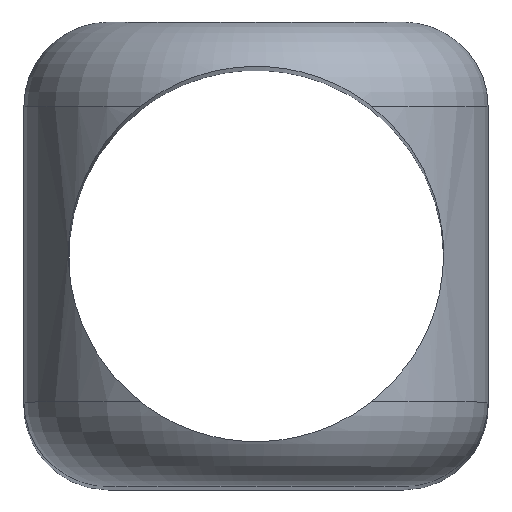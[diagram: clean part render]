
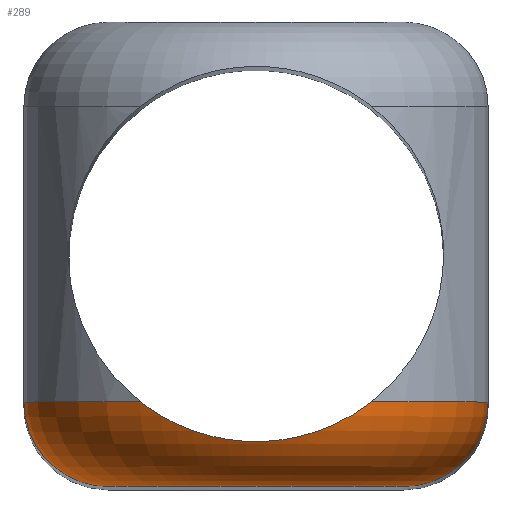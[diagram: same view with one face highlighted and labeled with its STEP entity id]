
A CAD part, top view. The second image highlights one B-rep face of the part: STEP entity #289.
In plain terms, the highlighted toroidal (fillet/blend) face has major radius 7 mm and minor radius 4 mm.
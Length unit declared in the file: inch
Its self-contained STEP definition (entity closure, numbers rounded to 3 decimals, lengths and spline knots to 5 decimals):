
#26=TOROIDAL_SURFACE('',#333,0.27559,0.15748);
#33=FACE_OUTER_BOUND('',#50,.T.);
#50=EDGE_LOOP('',(#227,#228,#229,#230,#231,#232));
#107=CIRCLE('',#325,0.43307);
#108=CIRCLE('',#334,0.43307);
#109=CIRCLE('',#335,0.15748);
#110=CIRCLE('',#336,0.27559);
#111=CIRCLE('',#337,0.15748);
#116=B_SPLINE_CURVE_WITH_KNOTS('',3,(#505,#506,#507,#508,#509,#510,#511,
#512,#513,#514,#515,#516,#517,#518,#519,#520,#521,#522),.UNSPECIFIED.,.F.,
 .F.,(4,2,2,2,2,2,2,2,4),(-1.20753,-0.9689,-0.7734,
-0.67593,-0.6117,-0.55016,-0.46606,
-0.28104,-0.00003),.UNSPECIFIED.);
#125=VERTEX_POINT('',#485);
#126=VERTEX_POINT('',#504);
#133=VERTEX_POINT('',#558);
#142=VERTEX_POINT('',#584);
#143=VERTEX_POINT('',#586);
#144=VERTEX_POINT('',#588);
#151=EDGE_CURVE('',#126,#125,#116,.T.);
#161=EDGE_CURVE('',#133,#126,#107,.T.);
#174=EDGE_CURVE('',#125,#142,#108,.T.);
#175=EDGE_CURVE('',#143,#142,#109,.T.);
#176=EDGE_CURVE('',#143,#144,#110,.T.);
#177=EDGE_CURVE('',#144,#133,#111,.T.);
#227=ORIENTED_EDGE('',*,*,#151,.T.);
#228=ORIENTED_EDGE('',*,*,#174,.T.);
#229=ORIENTED_EDGE('',*,*,#175,.F.);
#230=ORIENTED_EDGE('',*,*,#176,.T.);
#231=ORIENTED_EDGE('',*,*,#177,.T.);
#232=ORIENTED_EDGE('',*,*,#161,.T.);
#289=ADVANCED_FACE('',(#33),#26,.T.);
#325=AXIS2_PLACEMENT_3D('',#559,#373,#374);
#333=AXIS2_PLACEMENT_3D('',#583,#397,#398);
#334=AXIS2_PLACEMENT_3D('',#585,#399,#400);
#335=AXIS2_PLACEMENT_3D('',#587,#401,#402);
#336=AXIS2_PLACEMENT_3D('',#589,#403,#404);
#337=AXIS2_PLACEMENT_3D('',#590,#405,#406);
#373=DIRECTION('center_axis',(0.,-1.,0.));
#374=DIRECTION('ref_axis',(0.,0.,1.));
#397=DIRECTION('center_axis',(0.,1.,0.));
#398=DIRECTION('ref_axis',(0.,0.,1.));
#399=DIRECTION('center_axis',(0.,-1.,0.));
#400=DIRECTION('ref_axis',(0.,0.,1.));
#401=DIRECTION('center_axis',(0.,0.,-1.));
#402=DIRECTION('ref_axis',(0.,-1.,0.));
#403=DIRECTION('center_axis',(0.,1.,0.));
#404=DIRECTION('ref_axis',(0.,0.,1.));
#405=DIRECTION('center_axis',(0.,0.,1.));
#406=DIRECTION('ref_axis',(0.,-1.,0.));
#485=CARTESIAN_POINT('',(-0.21575,-0.27559,4.27314));
#504=CARTESIAN_POINT('',(0.21575,-0.27559,4.27314));
#505=CARTESIAN_POINT('Ctrl Pts',(0.21575,-0.27559,4.27314));
#506=CARTESIAN_POINT('Ctrl Pts',(0.19327,-0.2932,4.28606));
#507=CARTESIAN_POINT('Ctrl Pts',(0.16765,-0.30878,4.29472));
#508=CARTESIAN_POINT('Ctrl Pts',(0.11615,-0.33113,4.30539));
#509=CARTESIAN_POINT('Ctrl Pts',(0.09166,-0.33876,
4.30823));
#510=CARTESIAN_POINT('Ctrl Pts',(0.05384,-0.34607,
4.31078));
#511=CARTESIAN_POINT('Ctrl Pts',(0.04111,-0.34781,
4.31133));
#512=CARTESIAN_POINT('Ctrl Pts',(0.01988,-0.34954,4.31188));
#513=CARTESIAN_POINT('Ctrl Pts',(0.01142,-0.34992,
4.31199));
#514=CARTESIAN_POINT('Ctrl Pts',(-0.00516,-0.35006,
4.31204));
#515=CARTESIAN_POINT('Ctrl Pts',(-0.01327,-0.34984,
4.31197));
#516=CARTESIAN_POINT('Ctrl Pts',(-0.03242,-0.34867,
4.31161));
#517=CARTESIAN_POINT('Ctrl Pts',(-0.04345,-0.34747,
4.31123));
#518=CARTESIAN_POINT('Ctrl Pts',(-0.07843,-0.34197,
4.30938));
#519=CARTESIAN_POINT('Ctrl Pts',(-0.10196,-0.33568,
4.30718));
#520=CARTESIAN_POINT('Ctrl Pts',(-0.1586,-0.31414,4.29761));
#521=CARTESIAN_POINT('Ctrl Pts',(-0.1893,-0.2963,
4.28834));
#522=CARTESIAN_POINT('Ctrl Pts',(-0.21575,-0.27559,
4.27314));
#558=CARTESIAN_POINT('',(0.43307,-0.27559,3.89764));
#559=CARTESIAN_POINT('Origin',(0.,-0.27559,
3.89764));
#583=CARTESIAN_POINT('Origin',(0.,-0.27559,
3.89764));
#584=CARTESIAN_POINT('',(-0.43307,-0.27559,3.89764));
#585=CARTESIAN_POINT('Origin',(0.,-0.27559,
3.89764));
#586=CARTESIAN_POINT('',(-0.27559,-0.43307,3.89764));
#587=CARTESIAN_POINT('Origin',(-0.27559,-0.27559,3.89764));
#588=CARTESIAN_POINT('',(0.27559,-0.43307,3.89764));
#589=CARTESIAN_POINT('Origin',(0.,-0.43307,
3.89764));
#590=CARTESIAN_POINT('Origin',(0.27559,-0.27559,3.89764));
